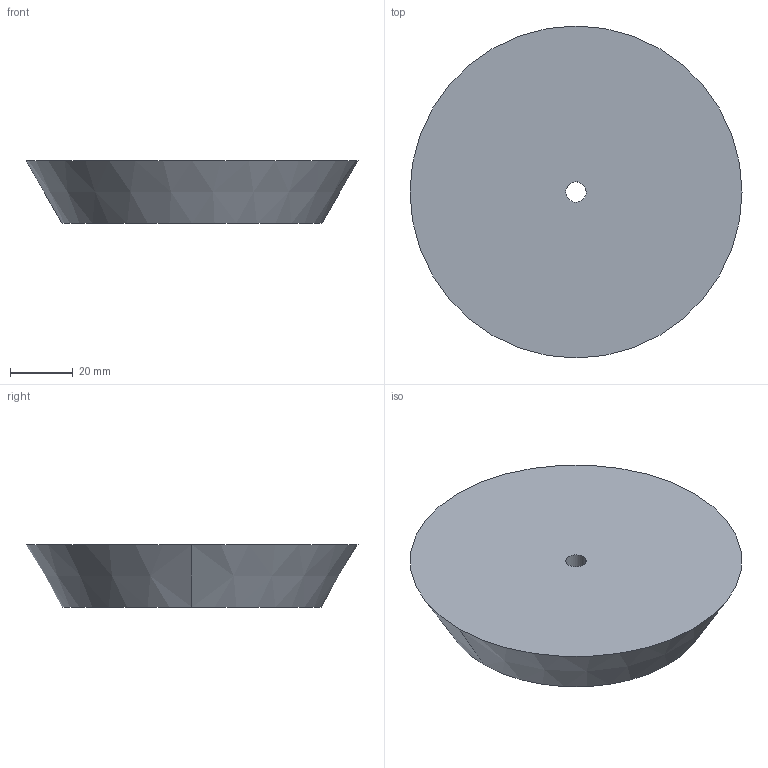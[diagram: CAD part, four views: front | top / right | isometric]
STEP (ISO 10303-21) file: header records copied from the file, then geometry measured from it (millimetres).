
FILE_DESCRIPTION(('CATIA V5 STEP Exchange'),'2;1');
FILE_NAME('C:\Users\andres.garcia\OneDrive - IQS\ASIGNATURAS\DAO\Controles\2223\c0\c1-AMOROS_Sergi-tapon.stp','2023-02-03T08:22:02+00:00',('none'),('none'),'CATIA Version 5-6 Release 2013 SP6','CATIA V5 STEP AP203','none');
FILE_SCHEMA(('CONFIG_CONTROL_DESIGN'));
Length unit declared in the file: millimetre
Products named in the file (1): c1-AMOROS_Sergi-tapon
Bounding box: 106 x 106 x 20 mm (x, y, z)
Volume: 140171 mm3; surface area: 21417.9 mm2
Topology: 1 solids, 1 shells, 6 faces, 12 edges, 8 vertices
Faces by surface type: cylinder 2, plane 2, cone 2
Entity records: 196 total; most frequent: CARTESIAN_POINT 26, ORIENTED_EDGE 24, DIRECTION 22, AXIS2_PLACEMENT_3D 14, EDGE_CURVE 12, CIRCLE 8, EDGE_LOOP 8, VERTEX_POINT 8
